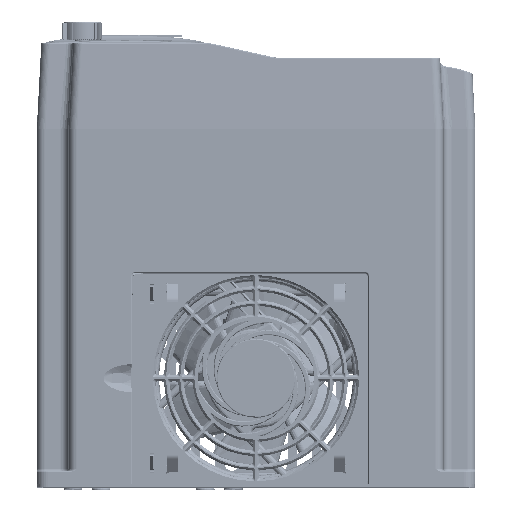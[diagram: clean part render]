
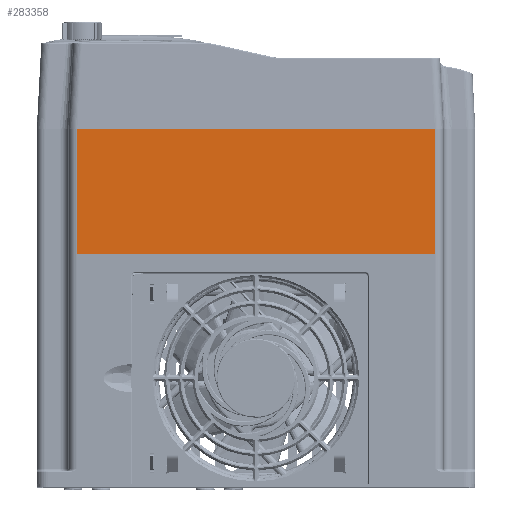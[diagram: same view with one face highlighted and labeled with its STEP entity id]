
A CAD part, top view. The second image highlights one B-rep face of the part: STEP entity #283358.
In plain terms, the highlighted planar face has unit normal (0, 0, 1) as drawn and (1, 0, 0) by its records, which use the part's own axes.
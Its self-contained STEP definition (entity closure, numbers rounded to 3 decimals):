
#239646=DIRECTION('',(0.,1.,0.));
#239647=VECTOR('',#239646,163.);
#239648=CARTESIAN_POINT('',(170.3,-81.5,0.5));
#239649=LINE('',#239648,#239647);
#239973=DIRECTION('',(0.,1.,0.));
#239974=VECTOR('',#239973,163.);
#239975=CARTESIAN_POINT('',(170.3,-81.5,57.8));
#239976=LINE('',#239975,#239974);
#245864=DIRECTION('',(0.,0.,-1.));
#245865=VECTOR('',#245864,57.3);
#245866=CARTESIAN_POINT('',(170.3,-81.5,57.8));
#245867=LINE('',#245866,#245865);
#245868=DIRECTION('',(0.,0.,1.));
#245869=VECTOR('',#245868,57.3);
#245870=CARTESIAN_POINT('',(170.3,81.5,0.5));
#245871=LINE('',#245870,#245869);
#270438=CARTESIAN_POINT('',(170.3,-81.5,57.8));
#270440=VERTEX_POINT('',#270438);
#270441=CARTESIAN_POINT('',(170.3,81.5,57.8));
#270443=VERTEX_POINT('',#270441);
#270471=CARTESIAN_POINT('',(170.3,-81.5,0.5));
#270472=VERTEX_POINT('',#270471);
#270475=CARTESIAN_POINT('',(170.3,81.5,0.5));
#270476=VERTEX_POINT('',#270475);
#283346=CARTESIAN_POINT('',(170.3,-100.,0.));
#283347=DIRECTION('',(1.,0.,0.));
#283348=DIRECTION('',(0.,1.,0.));
#283349=AXIS2_PLACEMENT_3D('',#283346,#283347,#283348);
#283350=PLANE('',#283349);
#283352=ORIENTED_EDGE('',*,*,#283351,.F.);
#283353=ORIENTED_EDGE('',*,*,#277251,.T.);
#283354=ORIENTED_EDGE('',*,*,#283340,.F.);
#283355=ORIENTED_EDGE('',*,*,#277036,.F.);
#283356=EDGE_LOOP('',(#283352,#283353,#283354,#283355));
#283357=FACE_OUTER_BOUND('',#283356,.F.);
#283358=ADVANCED_FACE('',(#283357),#283350,.T.);
#277036=EDGE_CURVE('',#270472,#270476,#239649,.T.);
#277251=EDGE_CURVE('',#270440,#270443,#239976,.T.);
#283340=EDGE_CURVE('',#270476,#270443,#245871,.T.);
#283351=EDGE_CURVE('',#270440,#270472,#245867,.T.);
